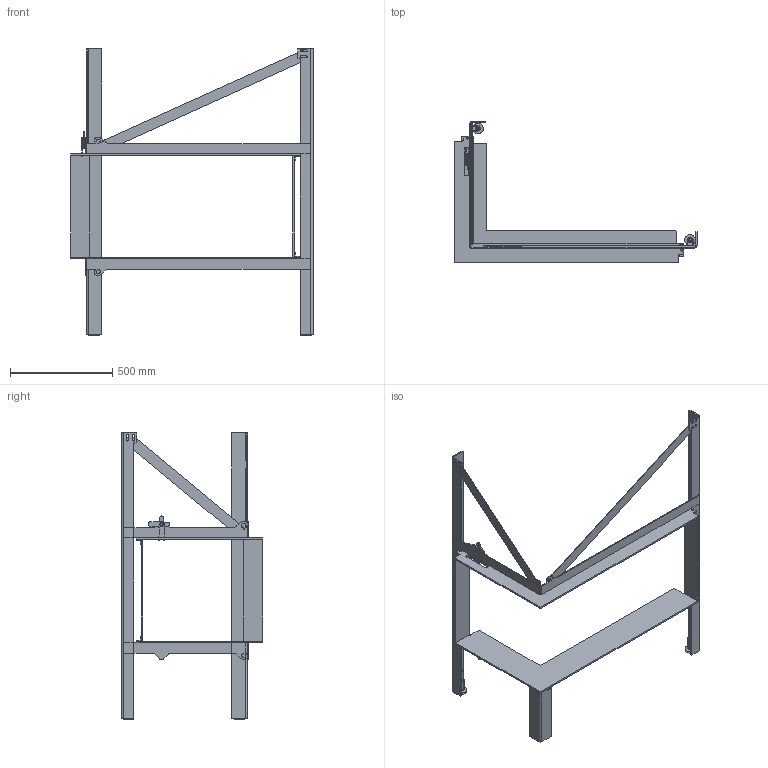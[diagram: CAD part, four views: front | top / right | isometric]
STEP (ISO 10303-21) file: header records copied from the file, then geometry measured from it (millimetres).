
FILE_DESCRIPTION(/* description */ (''),/* implementation_level */ '2;1');
FILE_NAME(/* name */ 'C:\Users\jku\Desktop\Export\RII 50x100x50\Links freistehend.stp',/* time_stamp */ '2019-09-30T08:18:23+02:00',/* author */ ('jku'),/* organization */ (''),/* preprocessor_version */ 'ST-DEVELOPER v17.2',/* originating_system */ 'Autodesk Inventor 2019',/* authorisation */ '');
FILE_SCHEMA (('AUTOMOTIVE_DESIGN { 1 0 10303 214 3 1 1 }'));
Length unit declared in the file: millimetre
Products named in the file (1): 2019-02988
Bounding box: 1186.4 x 693.5 x 1406 mm (x, y, z)
Volume: 7715532.9 mm3; surface area: 2626708.4 mm2
Topology: 34 solids, 34 shells, 723 faces, 1887 edges, 1243 vertices
Faces by surface type: plane 391, cylinder 280, cone 52
Full cylindrical faces by diameter (mm): 10 x1, 10.21 x2, 16 x4, 17 x3, 20 x2, 24 x3, 25 x2, 30 x3
Entity records: 22980 total; most frequent: CARTESIAN_POINT 4346, DIRECTION 3840, ORIENTED_EDGE 3774, EDGE_CURVE 1887, AXIS2_PLACEMENT_3D 1349, VERTEX_POINT 1243, LINE 1142, VECTOR 1142
